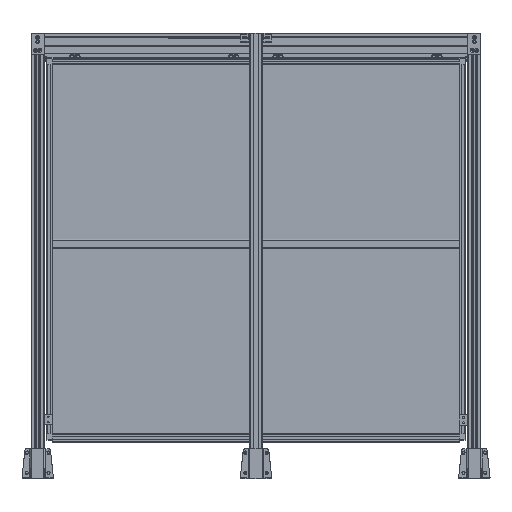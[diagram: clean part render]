
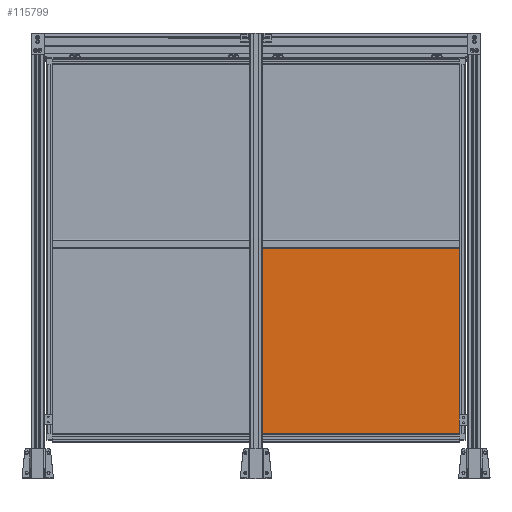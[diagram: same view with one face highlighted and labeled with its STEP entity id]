
A CAD part, front view. The second image highlights one B-rep face of the part: STEP entity #115799.
In plain terms, the highlighted planar face has unit normal (0, -1, 0).
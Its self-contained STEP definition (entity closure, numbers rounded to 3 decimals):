
#9748=FACE_OUTER_BOUND('',#16526,.T.);
#16526=EDGE_LOOP('',(#76292,#76293,#76294,#76295));
#24000=LINE('',#171180,#35579);
#24004=LINE('',#171187,#35583);
#24007=LINE('',#171193,#35586);
#24009=LINE('',#171196,#35588);
#35579=VECTOR('',#134955,10.);
#35583=VECTOR('',#134961,10.);
#35586=VECTOR('',#134966,10.);
#35588=VECTOR('',#134970,10.);
#47158=VERTEX_POINT('',#171177);
#47159=VERTEX_POINT('',#171179);
#47161=VERTEX_POINT('',#171185);
#47163=VERTEX_POINT('',#171191);
#58504=EDGE_CURVE('',#47159,#47158,#24000,.T.);
#58508=EDGE_CURVE('',#47158,#47161,#24004,.T.);
#58511=EDGE_CURVE('',#47161,#47163,#24007,.T.);
#58513=EDGE_CURVE('',#47163,#47159,#24009,.T.);
#76292=ORIENTED_EDGE('',*,*,#58513,.T.);
#76293=ORIENTED_EDGE('',*,*,#58504,.T.);
#76294=ORIENTED_EDGE('',*,*,#58508,.T.);
#76295=ORIENTED_EDGE('',*,*,#58511,.T.);
#111817=PLANE('',#122633);
#115799=ADVANCED_FACE('',(#9748),#111817,.F.);
#122633=AXIS2_PLACEMENT_3D('',#171198,#134973,#134974);
#134955=DIRECTION('',(-1.,0.,0.));
#134961=DIRECTION('',(0.,0.,-1.));
#134966=DIRECTION('',(1.,0.,0.));
#134970=DIRECTION('',(0.,0.,1.));
#134973=DIRECTION('center_axis',(0.,1.,0.));
#134974=DIRECTION('ref_axis',(0.,0.,
-1.));
#171177=CARTESIAN_POINT('',(-1027.401,151.806,44.307));
#171179=CARTESIAN_POINT('',(-72.401,151.806,44.307));
#171180=CARTESIAN_POINT('',(-72.401,151.806,44.307));
#171185=CARTESIAN_POINT('',(-1027.401,151.806,-830.693));
#171187=CARTESIAN_POINT('',(-1027.401,151.806,44.307));
#171191=CARTESIAN_POINT('',(-72.401,151.806,-830.693));
#171193=CARTESIAN_POINT('',(-1027.401,151.806,-830.693));
#171196=CARTESIAN_POINT('',(-72.401,151.806,-830.693));
#171198=CARTESIAN_POINT('Origin',(-549.901,151.806,-393.193));
